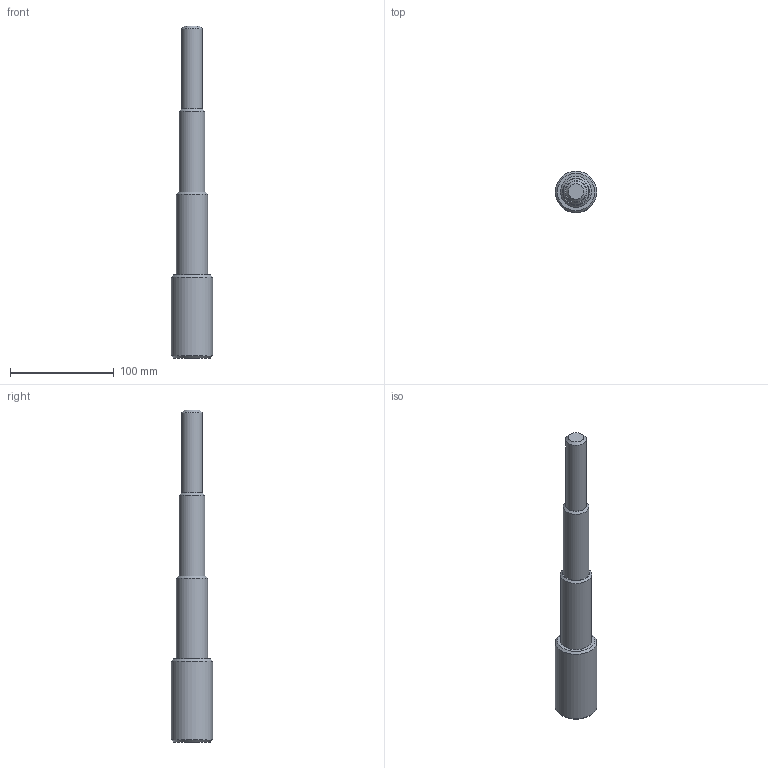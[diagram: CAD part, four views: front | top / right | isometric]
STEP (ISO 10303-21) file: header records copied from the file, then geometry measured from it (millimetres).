
FILE_DESCRIPTION(/* description */ ('Unknown'),/* implementation_level */ '2;1');
FILE_NAME(/* name */ 'MATEO',/* time_stamp */ '2022-03-22T11:47:32+01:00',/* author */ ('Unknown'),/* organization */ ('Unknown'),/* preprocessor_version */ 'ST-DEVELOPER v16.7',/* originating_system */ 'Solid Edge',/* authorisation */ 'Unknown');
FILE_SCHEMA (('AUTOMOTIVE_DESIGN {1 0 10303 214 3 1 1}'));
Length unit declared in the file: millimetre
Products named in the file (1): Holznagel_V1
Bounding box: 40 x 40 x 320 mm (x, y, z)
Volume: 220487.6 mm3; surface area: 30798.1 mm2
Topology: 1 solids, 1 shells, 14 faces, 26 edges, 17 vertices
Faces by surface type: plane 5, cone 5, cylinder 4
Full cylindrical faces by diameter (mm): 20 x1, 25 x1, 30 x1, 40 x1
Entity records: 304 total; most frequent: DIRECTION 56, CARTESIAN_POINT 41, AXIS2_PLACEMENT_3D 28, ORIENTED_EDGE 26, EDGE_LOOP 26, FACE_BOUND 26, ADVANCED_FACE 14, EDGE_CURVE 13
